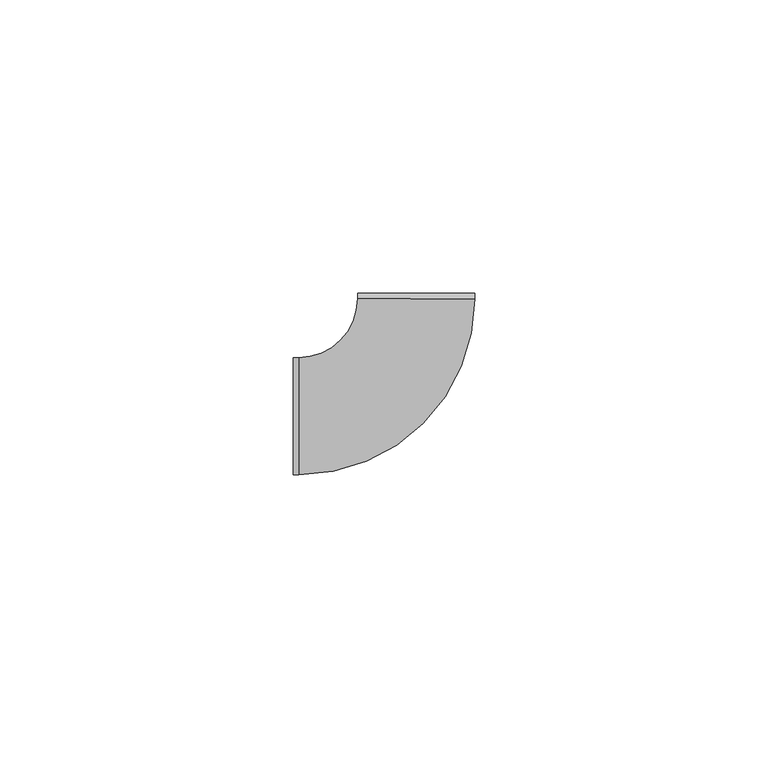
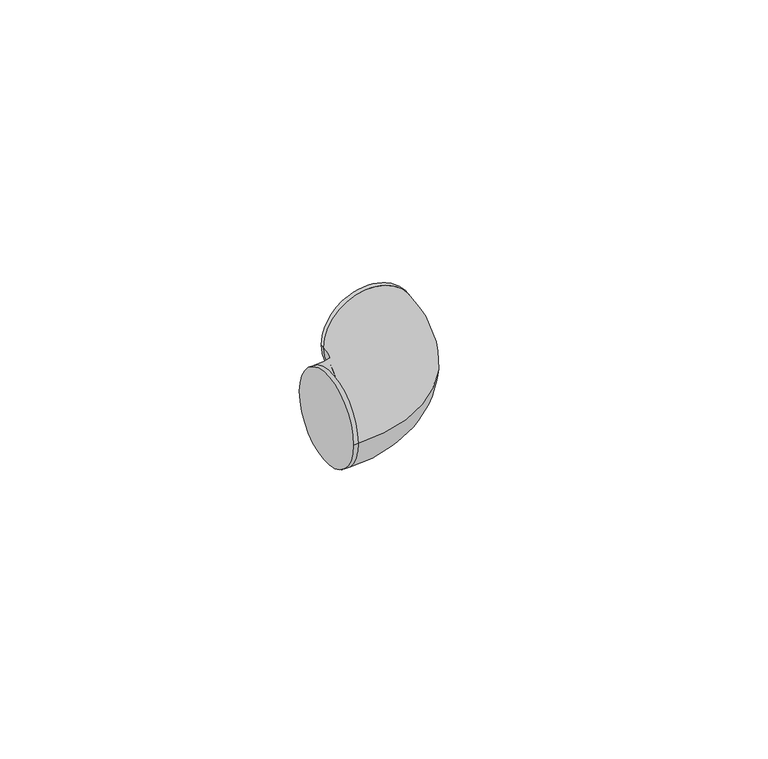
"""IFC4 building model written with IfcOpenShell, lengths in millimetres: cable carrier fitting geometry, ADSK_Поворот_Минимальный размер : Неспецифицируемый."""

from ifc_helpers import new_model, si_unit, point, frame, origin, place, context, project, spatial, circle_curve, ellipse_curve, trimmed, source, transform, mapped, element, save
from ifc_brep_helpers import plane_surface, cylinder_surface, revolved_surface, advanced_brep


def cable_carrier_fitting_3bca51ac(model_context):
    return source(origin(), model_context, "Body", "AdvancedBrep", [
        advanced_brep(
        [(-20.9964073, -10.0, 0.0), (-20.9964073, 10.0, 0.0), (-19.9964073, -10.0, 0.0), (-19.9964073, 10.0, 0.0), (-9.9964075, 19.9982035, 0.0), (10.0035922, 19.9946105, 0.0), (10.0037719, 20.9946104, 0.0), (-9.9962278, 20.9982035, 0.0)],
        [
            (0, 1, circle_curve(frame((-20.9964073, 0.0, 0.0), z_axis=(-1.0, -4.92260399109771e-12, 0.0), x_axis=(-4.92260399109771e-12, 1.0, 0.0)), 10.0)),
            (1, 0, circle_curve(frame((-20.9964073, 0.0, 0.0), z_axis=(-1.0, -4.92260399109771e-12, 0.0), x_axis=(-4.92260399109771e-12, 1.0, 0.0)), 10.0)),
            (0, 2),
            (2, 3, circle_curve(frame((-19.9964073, 0.0, 0.0), z_axis=(-1.0, -4.92260399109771e-12, 0.0), x_axis=(-4.92260399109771e-12, 1.0, 0.0)), 10.0)),
            (3, 1),
            (3, 2, circle_curve(frame((-19.9964073, 0.0, 0.0), z_axis=(-1.0, -4.92260399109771e-12, 0.0), x_axis=(-4.92260399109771e-12, 1.0, 0.0)), 10.0)),
            (4, 3, circle_curve(frame((-19.9964073, 20.0, 0.0), z_axis=(0.0, 0.0, -1.0), x_axis=(0.0, -1.0, 0.0)), 10.0)),
            (2, 5, circle_curve(frame((-19.9964073, 20.0, 0.0), z_axis=(0.0, 0.0, 1.0), x_axis=(0.0, -1.0, 0.0)), 30.0)),
            (5, 4, circle_curve(frame((0.0035924, 19.996407, 0.0), z_axis=(-0.00017965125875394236, -0.9999999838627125, 0.0), x_axis=(-0.9999999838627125, 0.00017965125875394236, 0.0)), 10.0)),
            (4, 5, circle_curve(frame((0.0035924, 19.996407, 0.0), z_axis=(-0.00017965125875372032, -0.9999999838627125, 0.0), x_axis=(-0.9999999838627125, 0.00017965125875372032, 0.0)), 10.0)),
            (6, 7, circle_curve(frame((0.003772, 20.996407, 0.0), z_axis=(0.00017965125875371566, 0.9999999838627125, 0.0), x_axis=(-0.9999999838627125, 0.00017965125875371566, 0.0)), 10.0)),
            (7, 6, circle_curve(frame((0.003772, 20.996407, 0.0), z_axis=(0.00017965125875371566, 0.9999999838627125, 0.0), x_axis=(-0.9999999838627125, 0.00017965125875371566, 0.0)), 10.0)),
            (5, 6),
            (7, 4),
        ],
        [
            plane_surface(frame((-20.9964073, 0.0, 0.0), z_axis=(-1.0, -4.92260399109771e-12, 0.0), x_axis=(0.0, 0.0, 1.0))),
            cylinder_surface(frame((-20.9964073, 0.0, 0.0), z_axis=(-1.0, -4.92260399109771e-12, 0.0), x_axis=(-4.92260399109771e-12, 1.0, 0.0)), 10.0),
            revolved_surface(trimmed(ellipse_curve(frame((-19.9964073, 0.0, 0.0), z_axis=(-1.0, 0.0, 0.0), x_axis=(0.0, 1.0, 0.0)), 10.0, 10.0), [point((-19.9964073, -10.0, 0.0))], [point((-19.9964073, 10.0, 0.0))], True, "CARTESIAN"), (-19.9964073, 20.0, 0.0), (0.0, 0.0, 1.0)),
            revolved_surface(trimmed(ellipse_curve(frame((-19.9964073, 0.0, 0.0), z_axis=(-1.0, 0.0, 0.0), x_axis=(0.0, 1.0, 0.0)), 10.0, 10.0), [point((-19.9964073, 10.0, 0.0))], [point((-19.9964073, -10.0, 0.0))], True, "CARTESIAN"), (-19.9964073, 20.0, 0.0), (0.0, 0.0, 1.0)),
            plane_surface(frame((0.003772, 20.996407, 0.0), z_axis=(0.00017965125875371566, 0.9999999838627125, 0.0), x_axis=(0.0, 0.0, 1.0))),
            cylinder_surface(frame((0.0035924, 19.996407, 0.0), z_axis=(-0.00017965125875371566, -0.9999999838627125, 0.0), x_axis=(-0.9999999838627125, 0.00017965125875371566, 0.0)), 10.0),
        ],
        [
            (0, [[1, 2]]),
            (1, [[-1, 3, 4, 5]]),
            (1, [[-2, -5, 6, -3]]),
            (2, [[7, -4, 8, 9]]),
            (3, [[-8, -6, -7, 10]]),
            (4, [[11, 12]]),
            (5, [[-9, 13, -12, 14]]),
            (5, [[-10, -14, -11, -13]]),
        ],
    ),
    ])


if __name__ == "__main__":
    model = new_model("IFC4")
    model_context = context("Model", 3, world=origin())
    ifc_project = project(units=[si_unit("LENGTHUNIT", "METRE", prefix="MILLI")], contexts=[model_context])
    site = spatial("IfcSite", under=ifc_project)
    building = spatial("IfcBuilding", under=site)
    placement = place(None, origin())
    cable_carrier_fitting_shape = cable_carrier_fitting_3bca51ac(model_context)
    element("IfcCableCarrierFitting", 1, ObjectType="ADSK_Поворот_Минимальный размер : Неспецифицируемый", at=placement, inside=building, context=model_context, shape_type="MappedRepresentation", body=[
        mapped(cable_carrier_fitting_shape, transform((0.0, 0.0, 0.0), x_axis=(1.0, 0.0, 0.0), y_axis=(0.0, 1.0, 0.0), z_axis=(0.0, 0.0, 1.0))),
    ])
    save(model, "model.ifc")
